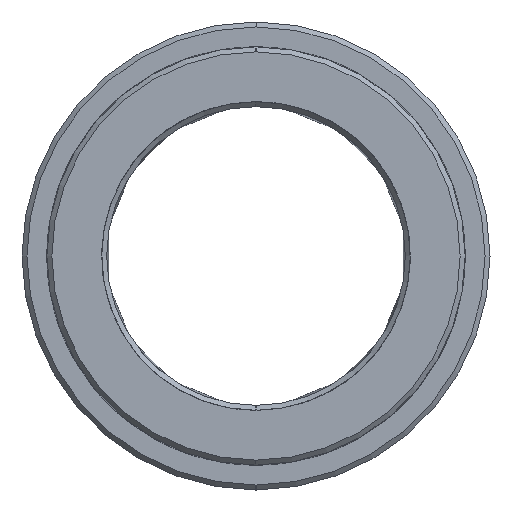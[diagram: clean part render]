
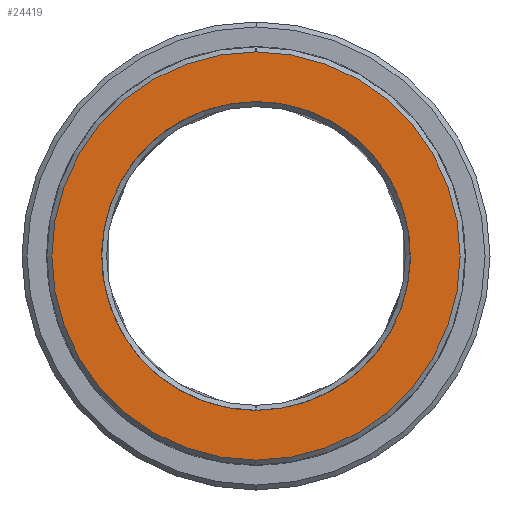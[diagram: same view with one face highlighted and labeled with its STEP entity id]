
A CAD part, left-side view. The second image highlights one B-rep face of the part: STEP entity #24419.
In plain terms, the highlighted planar face has unit normal (1, 0, 0).
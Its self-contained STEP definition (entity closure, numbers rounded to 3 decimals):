
#24336=CARTESIAN_POINT('Axis2P3D Location',(-27.,0.,0.)) ;
#24341=CARTESIAN_POINT('Axis2P3D Location',(-27.,0.,0.)) ;
#24345=CARTESIAN_POINT('Vertex',(-27.,0.,-20.5)) ;
#24347=CARTESIAN_POINT('Vertex',(-27.,0.,20.5)) ;
#24350=CARTESIAN_POINT('Axis2P3D Location',(-27.,0.,0.)) ;
#24360=CARTESIAN_POINT('Control Point',(-27.,0.,15.5)) ;
#24361=CARTESIAN_POINT('Control Point',(-27.,1.543,15.5)) ;
#24362=CARTESIAN_POINT('Control Point',(-27.,3.086,15.308)) ;
#24363=CARTESIAN_POINT('Control Point',(-27.,4.597,14.924)) ;
#24364=CARTESIAN_POINT('Control Point',(-27.,7.492,13.788)) ;
#24365=CARTESIAN_POINT('Control Point',(-27.,10.02,11.977)) ;
#24366=CARTESIAN_POINT('Control Point',(-27.,11.165,10.918)) ;
#24367=CARTESIAN_POINT('Control Point',(-27.,13.166,8.538)) ;
#24368=CARTESIAN_POINT('Control Point',(-27.,14.523,5.74)) ;
#24369=CARTESIAN_POINT('Control Point',(-27.,15.023,4.263)) ;
#24370=CARTESIAN_POINT('Control Point',(-27.,15.645,1.216)) ;
#24371=CARTESIAN_POINT('Control Point',(-27.,15.501,-1.89)) ;
#24372=CARTESIAN_POINT('Control Point',(-27.,15.235,-3.427)) ;
#24373=CARTESIAN_POINT('Control Point',(-27.,14.327,-6.401)) ;
#24374=CARTESIAN_POINT('Control Point',(-27.,12.718,-9.062)) ;
#24375=CARTESIAN_POINT('Control Point',(-27.,11.751,-10.285)) ;
#24376=CARTESIAN_POINT('Control Point',(-27.,9.533,-12.464)) ;
#24377=CARTESIAN_POINT('Control Point',(-27.,6.848,-14.034)) ;
#24378=CARTESIAN_POINT('Control Point',(-27.,5.415,-14.647)) ;
#24379=CARTESIAN_POINT('Control Point',(-27.,3.454,-15.209)) ;
#24380=CARTESIAN_POINT('Control Point',(-27.,1.443,-15.444)) ;
#24381=CARTESIAN_POINT('Control Point',(-27.,0.962,-15.481)) ;
#24382=CARTESIAN_POINT('Control Point',(-27.,0.481,-15.5)) ;
#24383=CARTESIAN_POINT('Control Point',(-27.,0.,-15.5)) ;
#24384=CARTESIAN_POINT('Vertex',(-27.,0.,15.5)) ;
#24386=CARTESIAN_POINT('Vertex',(-27.,0.,-15.5)) ;
#24390=CARTESIAN_POINT('Control Point',(-27.,0.,-15.5)) ;
#24391=CARTESIAN_POINT('Control Point',(-27.,-1.543,-15.5)) ;
#24392=CARTESIAN_POINT('Control Point',(-27.,-3.086,-15.308)) ;
#24393=CARTESIAN_POINT('Control Point',(-27.,-4.597,-14.924)) ;
#24394=CARTESIAN_POINT('Control Point',(-27.,-7.492,-13.788)) ;
#24395=CARTESIAN_POINT('Control Point',(-27.,-10.02,-11.977)) ;
#24396=CARTESIAN_POINT('Control Point',(-27.,-11.165,-10.918)) ;
#24397=CARTESIAN_POINT('Control Point',(-27.,-13.166,-8.538)) ;
#24398=CARTESIAN_POINT('Control Point',(-27.,-14.523,-5.74)) ;
#24399=CARTESIAN_POINT('Control Point',(-27.,-15.023,-4.263)) ;
#24400=CARTESIAN_POINT('Control Point',(-27.,-15.645,-1.216)) ;
#24401=CARTESIAN_POINT('Control Point',(-27.,-15.501,1.89)) ;
#24402=CARTESIAN_POINT('Control Point',(-27.,-15.235,3.427)) ;
#24403=CARTESIAN_POINT('Control Point',(-27.,-14.327,6.401)) ;
#24404=CARTESIAN_POINT('Control Point',(-27.,-12.718,9.062)) ;
#24405=CARTESIAN_POINT('Control Point',(-27.,-11.751,10.285)) ;
#24406=CARTESIAN_POINT('Control Point',(-27.,-9.533,12.464)) ;
#24407=CARTESIAN_POINT('Control Point',(-27.,-6.848,14.034)) ;
#24408=CARTESIAN_POINT('Control Point',(-27.,-5.415,14.647)) ;
#24409=CARTESIAN_POINT('Control Point',(-27.,-3.454,15.209)) ;
#24410=CARTESIAN_POINT('Control Point',(-27.,-1.443,15.444)) ;
#24411=CARTESIAN_POINT('Control Point',(-27.,-0.962,15.481)) ;
#24412=CARTESIAN_POINT('Control Point',(-27.,-0.481,15.5)) ;
#24413=CARTESIAN_POINT('Control Point',(-27.,0.,15.5)) ;
#24337=DIRECTION('Axis2P3D Direction',(1.,0.,0.)) ;
#24338=DIRECTION('Axis2P3D XDirection',(0.,1.,0.)) ;
#24342=DIRECTION('Axis2P3D Direction',(1.,0.,0.)) ;
#24351=DIRECTION('Axis2P3D Direction',(1.,0.,0.)) ;
#24339=AXIS2_PLACEMENT_3D('Plane Axis2P3D',#24336,#24337,#24338) ;
#24343=AXIS2_PLACEMENT_3D('Circle Axis2P3D',#24341,#24342,$) ;
#24352=AXIS2_PLACEMENT_3D('Circle Axis2P3D',#24350,#24351,$) ;
#24356=ORIENTED_EDGE('',*,*,#24349,.T.) ;
#24357=ORIENTED_EDGE('',*,*,#24354,.T.) ;
#24416=ORIENTED_EDGE('',*,*,#24388,.T.) ;
#24417=ORIENTED_EDGE('',*,*,#24414,.T.) ;
#24418=FACE_BOUND('',#24415,.T.) ;
#24419=ADVANCED_FACE('MANIFOLD_SOLID_BREP #11913',(#24358,#24418),#24340,.T.) ;
#24359=B_SPLINE_CURVE_WITH_KNOTS('',5,(#24360,#24361,#24362,#24363,#24364,#24365,#24366,#24367,#24368,#24369,#24370,#24371,#24372,#24373,#24374,#24375,#24376,#24377,#24378,#24379,#24380,#24381,#24382,#24383),.UNSPECIFIED.,.F.,.U.,(6,3,3,3,3,3,3,6),(0.,10.91,21.821,32.731,43.642,54.552,65.463,68.862),.UNSPECIFIED.) ;
#24389=B_SPLINE_CURVE_WITH_KNOTS('',5,(#24390,#24391,#24392,#24393,#24394,#24395,#24396,#24397,#24398,#24399,#24400,#24401,#24402,#24403,#24404,#24405,#24406,#24407,#24408,#24409,#24410,#24411,#24412,#24413),.UNSPECIFIED.,.F.,.U.,(6,3,3,3,3,3,3,6),(0.,10.91,21.821,32.731,43.642,54.552,65.463,68.862),.UNSPECIFIED.) ;
#24344=CIRCLE('generated circle',#24343,20.5) ;
#24353=CIRCLE('generated circle',#24352,20.5) ;
#24349=EDGE_CURVE('',#24346,#24348,#24344,.T.) ;
#24354=EDGE_CURVE('',#24348,#24346,#24353,.T.) ;
#24388=EDGE_CURVE('',#24385,#24387,#24359,.T.) ;
#24414=EDGE_CURVE('',#24387,#24385,#24389,.T.) ;
#24355=EDGE_LOOP('',(#24356,#24357)) ;
#24415=EDGE_LOOP('',(#24416,#24417)) ;
#24358=FACE_OUTER_BOUND('',#24355,.T.) ;
#24340=PLANE('Plane',#24339) ;
#24346=VERTEX_POINT('',#24345) ;
#24348=VERTEX_POINT('',#24347) ;
#24385=VERTEX_POINT('',#24384) ;
#24387=VERTEX_POINT('',#24386) ;
